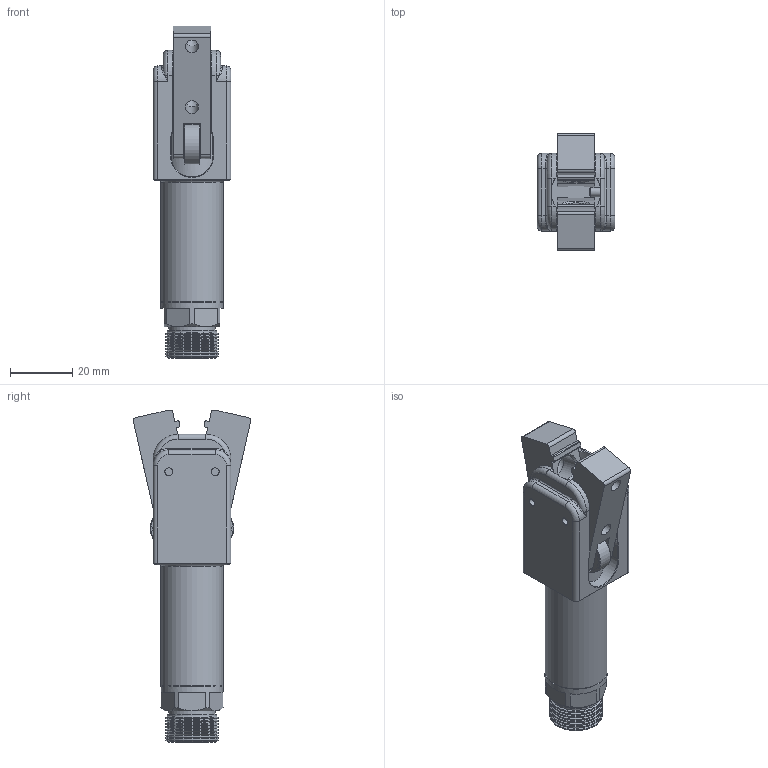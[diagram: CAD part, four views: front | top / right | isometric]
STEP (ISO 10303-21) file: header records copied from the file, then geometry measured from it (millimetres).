
FILE_DESCRIPTION(/* description */ (''),/* implementation_level */ '2;1');
FILE_NAME(/* name */ 'GRT20C.stp',/* time_stamp */ '2023-03-09T11:00:57+08:00',/* author */ (''),/* organization */ (''),/* preprocessor_version */ 'ST-DEVELOPER v16',/* originating_system */ 'SIEMENS PLM Software NX 10.0',/* authorisation */ '');
FILE_SCHEMA (('AUTOMOTIVE_DESIGN { 1 0 10303 214 3 1 1 1 }'));
Length unit declared in the file: millimetre
Products named in the file (1): Admi115498B06jt7
Bounding box: 25 x 37.75 x 106.84 mm (x, y, z)
Volume: 39478.8 mm3; surface area: 15291.4 mm2
Topology: 2 solids, 4 shells, 347 faces, 894 edges, 557 vertices
Faces by surface type: plane 140, cylinder 112, cone 63, torus 24, bspline 8
Full cylindrical faces by diameter (mm): 0.5 x1, 1 x1, 2 x1, 2.5 x2, 3 x2, 3.4 x1, 4 x6, 4.2 x4, 5.54 x1, 8 x2, 8.8 x3, 15 x1, 16 x1, 17 x8, 20 x2
Entity records: 11777 total; most frequent: CARTESIAN_POINT 2780, DIRECTION 1662, ORIENTED_EDGE 1560, EDGE_CURVE 780, AXIS2_PLACEMENT_3D 647, VERTEX_POINT 532, EDGE_LOOP 455, LINE 368
